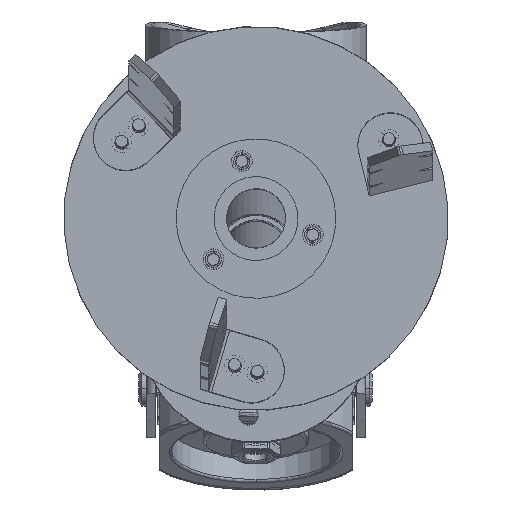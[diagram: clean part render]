
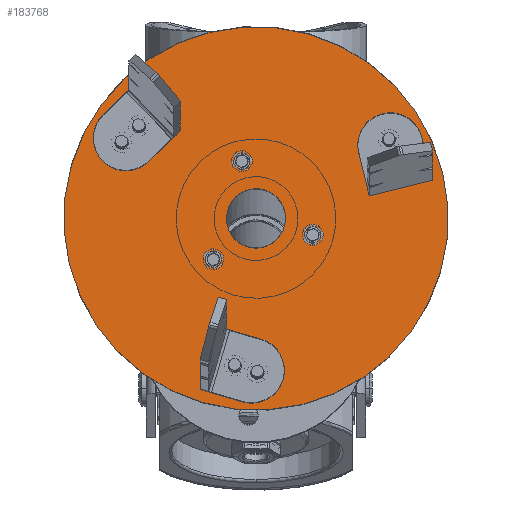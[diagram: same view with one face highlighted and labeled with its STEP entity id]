
A CAD part, front view. The second image highlights one B-rep face of the part: STEP entity #183768.
In plain terms, the highlighted planar face has unit normal (0, -0.998, 0.058) as drawn and (0, 0, 1) by its records, which use the part's own axes.
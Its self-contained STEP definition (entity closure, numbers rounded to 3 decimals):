
#183065=CARTESIAN_POINT('',(0.,0.,4.));
#183066=DIRECTION('',(0.,0.,-1.));
#183067=DIRECTION('',(1.,0.,0.));
#183068=AXIS2_PLACEMENT_3D('',#183065,#183066,#183067);
#183070=CARTESIAN_POINT('',(0.,0.,4.));
#183071=DIRECTION('',(0.,0.,-1.));
#183072=DIRECTION('',(-1.,0.,0.));
#183073=AXIS2_PLACEMENT_3D('',#183070,#183071,#183072);
#183075=CARTESIAN_POINT('',(-50.,-7.,4.));
#183076=DIRECTION('',(0.,0.,1.));
#183077=DIRECTION('',(1.,0.,0.));
#183078=AXIS2_PLACEMENT_3D('',#183075,#183076,#183077);
#183080=CARTESIAN_POINT('',(-50.,-7.,4.));
#183081=DIRECTION('',(0.,0.,1.));
#183082=DIRECTION('',(-1.,0.,0.));
#183083=AXIS2_PLACEMENT_3D('',#183080,#183081,#183082);
#183085=CARTESIAN_POINT('',(-50.,-15.,4.));
#183086=DIRECTION('',(0.,0.,1.));
#183087=DIRECTION('',(1.,0.,0.));
#183088=AXIS2_PLACEMENT_3D('',#183085,#183086,#183087);
#183090=CARTESIAN_POINT('',(-50.,-15.,4.));
#183091=DIRECTION('',(0.,0.,1.));
#183092=DIRECTION('',(-1.,0.,0.));
#183093=AXIS2_PLACEMENT_3D('',#183090,#183091,#183092);
#183095=CARTESIAN_POINT('',(31.062,-39.801,4.));
#183096=DIRECTION('',(0.,0.,1.));
#183097=DIRECTION('',(-0.5,0.866,0.));
#183098=AXIS2_PLACEMENT_3D('',#183095,#183096,#183097);
#183100=CARTESIAN_POINT('',(31.062,-39.801,4.));
#183101=DIRECTION('',(0.,0.,1.));
#183102=DIRECTION('',(0.5,-0.866,0.));
#183103=AXIS2_PLACEMENT_3D('',#183100,#183101,#183102);
#183105=CARTESIAN_POINT('',(37.99,-35.801,4.));
#183106=DIRECTION('',(0.,0.,1.));
#183107=DIRECTION('',(-0.5,0.866,0.));
#183108=AXIS2_PLACEMENT_3D('',#183105,#183106,#183107);
#183110=CARTESIAN_POINT('',(37.99,-35.801,4.));
#183111=DIRECTION('',(0.,0.,1.));
#183112=DIRECTION('',(0.5,-0.866,0.));
#183113=AXIS2_PLACEMENT_3D('',#183110,#183111,#183112);
#183115=CARTESIAN_POINT('',(18.938,46.801,4.));
#183116=DIRECTION('',(0.,0.,1.));
#183117=DIRECTION('',(-0.5,-0.866,0.));
#183118=AXIS2_PLACEMENT_3D('',#183115,#183116,#183117);
#183120=CARTESIAN_POINT('',(18.938,46.801,4.));
#183121=DIRECTION('',(0.,0.,1.));
#183122=DIRECTION('',(0.5,0.866,0.));
#183123=AXIS2_PLACEMENT_3D('',#183120,#183121,#183122);
#183125=CARTESIAN_POINT('',(12.01,50.801,4.));
#183126=DIRECTION('',(0.,0.,1.));
#183127=DIRECTION('',(-0.5,-0.866,0.));
#183128=AXIS2_PLACEMENT_3D('',#183125,#183126,#183127);
#183130=CARTESIAN_POINT('',(12.01,50.801,4.));
#183131=DIRECTION('',(0.,0.,1.));
#183132=DIRECTION('',(0.5,0.866,0.));
#183133=AXIS2_PLACEMENT_3D('',#183130,#183131,#183132);
#183135=CARTESIAN_POINT('',(0.,0.,4.));
#183136=DIRECTION('',(0.,0.,1.));
#183137=DIRECTION('',(-1.,0.,0.));
#183138=AXIS2_PLACEMENT_3D('',#183135,#183136,#183137);
#183140=CARTESIAN_POINT('',(0.,0.,4.));
#183141=DIRECTION('',(0.,0.,1.));
#183142=DIRECTION('',(1.,0.,0.));
#183143=AXIS2_PLACEMENT_3D('',#183140,#183141,#183142);
#183145=CARTESIAN_POINT('',(-17.321,10.,4.));
#183146=DIRECTION('',(0.,0.,1.));
#183147=DIRECTION('',(1.,0.,0.));
#183148=AXIS2_PLACEMENT_3D('',#183145,#183146,#183147);
#183150=CARTESIAN_POINT('',(-17.321,10.,4.));
#183151=DIRECTION('',(0.,0.,1.));
#183152=DIRECTION('',(-1.,0.,0.));
#183153=AXIS2_PLACEMENT_3D('',#183150,#183151,#183152);
#183155=CARTESIAN_POINT('',(17.321,10.,4.));
#183156=DIRECTION('',(0.,0.,1.));
#183157=DIRECTION('',(1.,0.,0.));
#183158=AXIS2_PLACEMENT_3D('',#183155,#183156,#183157);
#183160=CARTESIAN_POINT('',(17.321,10.,4.));
#183161=DIRECTION('',(0.,0.,1.));
#183162=DIRECTION('',(-1.,0.,0.));
#183163=AXIS2_PLACEMENT_3D('',#183160,#183161,#183162);
#183165=CARTESIAN_POINT('',(0.,-20.,4.));
#183166=DIRECTION('',(0.,0.,1.));
#183167=DIRECTION('',(1.,0.,0.));
#183168=AXIS2_PLACEMENT_3D('',#183165,#183166,#183167);
#183170=CARTESIAN_POINT('',(0.,-20.,4.));
#183171=DIRECTION('',(0.,0.,1.));
#183172=DIRECTION('',(-1.,0.,0.));
#183173=AXIS2_PLACEMENT_3D('',#183170,#183171,#183172);
#183495=CARTESIAN_POINT('',(65.,0.,4.));
#183496=CARTESIAN_POINT('',(-65.,0.,4.));
#183497=VERTEX_POINT('',#183495);
#183498=VERTEX_POINT('',#183496);
#183499=CARTESIAN_POINT('',(-47.75,-7.,4.));
#183500=CARTESIAN_POINT('',(-52.25,-7.,4.));
#183501=VERTEX_POINT('',#183499);
#183502=VERTEX_POINT('',#183500);
#183503=CARTESIAN_POINT('',(-47.75,-15.,4.));
#183504=CARTESIAN_POINT('',(-52.25,-15.,4.));
#183505=VERTEX_POINT('',#183503);
#183506=VERTEX_POINT('',#183504);
#183507=CARTESIAN_POINT('',(29.937,-37.853,4.));
#183508=CARTESIAN_POINT('',(32.187,-41.75,4.));
#183509=VERTEX_POINT('',#183507);
#183510=VERTEX_POINT('',#183508);
#183511=CARTESIAN_POINT('',(36.865,-33.853,4.));
#183512=CARTESIAN_POINT('',(39.115,-37.75,4.));
#183513=VERTEX_POINT('',#183511);
#183514=VERTEX_POINT('',#183512);
#183515=CARTESIAN_POINT('',(17.813,44.853,4.));
#183516=CARTESIAN_POINT('',(20.063,48.75,4.));
#183517=VERTEX_POINT('',#183515);
#183518=VERTEX_POINT('',#183516);
#183519=CARTESIAN_POINT('',(10.885,48.853,4.));
#183520=CARTESIAN_POINT('',(13.135,52.75,4.));
#183521=VERTEX_POINT('',#183519);
#183522=VERTEX_POINT('',#183520);
#183523=CARTESIAN_POINT('',(-10.,0.,4.));
#183524=CARTESIAN_POINT('',(10.,0.,4.));
#183525=VERTEX_POINT('',#183523);
#183526=VERTEX_POINT('',#183524);
#183527=CARTESIAN_POINT('',(-14.571,10.,4.));
#183528=CARTESIAN_POINT('',(-20.071,10.,4.));
#183529=VERTEX_POINT('',#183527);
#183530=VERTEX_POINT('',#183528);
#183531=CARTESIAN_POINT('',(20.071,10.,4.));
#183532=CARTESIAN_POINT('',(14.571,10.,4.));
#183533=VERTEX_POINT('',#183531);
#183534=VERTEX_POINT('',#183532);
#183535=CARTESIAN_POINT('',(2.75,-20.,4.));
#183536=CARTESIAN_POINT('',(-2.75,-20.,4.));
#183537=VERTEX_POINT('',#183535);
#183538=VERTEX_POINT('',#183536);
#183698=CARTESIAN_POINT('',(0.,0.,4.));
#183699=DIRECTION('',(0.,0.,1.));
#183700=DIRECTION('',(1.,0.,0.));
#183701=AXIS2_PLACEMENT_3D('',#183698,#183699,#183700);
#183702=PLANE('',#183701);
#183703=ORIENTED_EDGE('',*,*,#183688,.T.);
#183705=ORIENTED_EDGE('',*,*,#183704,.T.);
#183706=EDGE_LOOP('',(#183703,#183705));
#183707=FACE_OUTER_BOUND('',#183706,.F.);
#183709=ORIENTED_EDGE('',*,*,#183708,.T.);
#183711=ORIENTED_EDGE('',*,*,#183710,.T.);
#183712=EDGE_LOOP('',(#183709,#183711));
#183713=FACE_BOUND('',#183712,.F.);
#183715=ORIENTED_EDGE('',*,*,#183714,.T.);
#183717=ORIENTED_EDGE('',*,*,#183716,.T.);
#183718=EDGE_LOOP('',(#183715,#183717));
#183719=FACE_BOUND('',#183718,.F.);
#183721=ORIENTED_EDGE('',*,*,#183720,.T.);
#183723=ORIENTED_EDGE('',*,*,#183722,.T.);
#183724=EDGE_LOOP('',(#183721,#183723));
#183725=FACE_BOUND('',#183724,.F.);
#183727=ORIENTED_EDGE('',*,*,#183726,.T.);
#183729=ORIENTED_EDGE('',*,*,#183728,.T.);
#183730=EDGE_LOOP('',(#183727,#183729));
#183731=FACE_BOUND('',#183730,.F.);
#183733=ORIENTED_EDGE('',*,*,#183732,.T.);
#183735=ORIENTED_EDGE('',*,*,#183734,.T.);
#183736=EDGE_LOOP('',(#183733,#183735));
#183737=FACE_BOUND('',#183736,.F.);
#183739=ORIENTED_EDGE('',*,*,#183738,.T.);
#183741=ORIENTED_EDGE('',*,*,#183740,.T.);
#183742=EDGE_LOOP('',(#183739,#183741));
#183743=FACE_BOUND('',#183742,.F.);
#183745=ORIENTED_EDGE('',*,*,#183744,.T.);
#183747=ORIENTED_EDGE('',*,*,#183746,.T.);
#183748=EDGE_LOOP('',(#183745,#183747));
#183749=FACE_BOUND('',#183748,.F.);
#183751=ORIENTED_EDGE('',*,*,#183750,.T.);
#183753=ORIENTED_EDGE('',*,*,#183752,.T.);
#183754=EDGE_LOOP('',(#183751,#183753));
#183755=FACE_BOUND('',#183754,.F.);
#183757=ORIENTED_EDGE('',*,*,#183756,.T.);
#183759=ORIENTED_EDGE('',*,*,#183758,.T.);
#183760=EDGE_LOOP('',(#183757,#183759));
#183761=FACE_BOUND('',#183760,.F.);
#183763=ORIENTED_EDGE('',*,*,#183762,.T.);
#183765=ORIENTED_EDGE('',*,*,#183764,.T.);
#183766=EDGE_LOOP('',(#183763,#183765));
#183767=FACE_BOUND('',#183766,.F.);
#183768=ADVANCED_FACE('',(#183707,#183713,#183719,#183725,#183731,#183737,
#183743,#183749,#183755,#183761,#183767),#183702,.T.);
#183069=CIRCLE('',#183068,65.);
#183074=CIRCLE('',#183073,65.);
#183079=CIRCLE('',#183078,2.25);
#183084=CIRCLE('',#183083,2.25);
#183089=CIRCLE('',#183088,2.25);
#183094=CIRCLE('',#183093,2.25);
#183099=CIRCLE('',#183098,2.25);
#183104=CIRCLE('',#183103,2.25);
#183109=CIRCLE('',#183108,2.25);
#183114=CIRCLE('',#183113,2.25);
#183119=CIRCLE('',#183118,2.25);
#183124=CIRCLE('',#183123,2.25);
#183129=CIRCLE('',#183128,2.25);
#183134=CIRCLE('',#183133,2.25);
#183139=CIRCLE('',#183138,10.);
#183144=CIRCLE('',#183143,10.);
#183149=CIRCLE('',#183148,2.75);
#183154=CIRCLE('',#183153,2.75);
#183159=CIRCLE('',#183158,2.75);
#183164=CIRCLE('',#183163,2.75);
#183169=CIRCLE('',#183168,2.75);
#183174=CIRCLE('',#183173,2.75);
#183688=EDGE_CURVE('',#183497,#183498,#183069,.T.);
#183704=EDGE_CURVE('',#183498,#183497,#183074,.T.);
#183708=EDGE_CURVE('',#183501,#183502,#183079,.T.);
#183710=EDGE_CURVE('',#183502,#183501,#183084,.T.);
#183714=EDGE_CURVE('',#183505,#183506,#183089,.T.);
#183716=EDGE_CURVE('',#183506,#183505,#183094,.T.);
#183720=EDGE_CURVE('',#183509,#183510,#183099,.T.);
#183722=EDGE_CURVE('',#183510,#183509,#183104,.T.);
#183726=EDGE_CURVE('',#183513,#183514,#183109,.T.);
#183728=EDGE_CURVE('',#183514,#183513,#183114,.T.);
#183732=EDGE_CURVE('',#183517,#183518,#183119,.T.);
#183734=EDGE_CURVE('',#183518,#183517,#183124,.T.);
#183738=EDGE_CURVE('',#183521,#183522,#183129,.T.);
#183740=EDGE_CURVE('',#183522,#183521,#183134,.T.);
#183744=EDGE_CURVE('',#183525,#183526,#183139,.T.);
#183746=EDGE_CURVE('',#183526,#183525,#183144,.T.);
#183750=EDGE_CURVE('',#183529,#183530,#183149,.T.);
#183752=EDGE_CURVE('',#183530,#183529,#183154,.T.);
#183756=EDGE_CURVE('',#183533,#183534,#183159,.T.);
#183758=EDGE_CURVE('',#183534,#183533,#183164,.T.);
#183762=EDGE_CURVE('',#183537,#183538,#183169,.T.);
#183764=EDGE_CURVE('',#183538,#183537,#183174,.T.);
